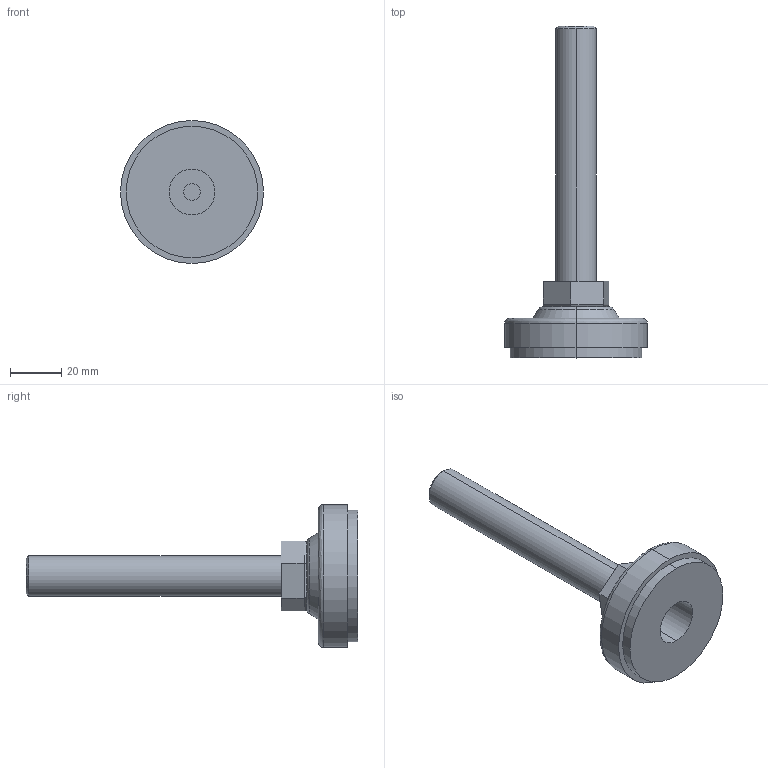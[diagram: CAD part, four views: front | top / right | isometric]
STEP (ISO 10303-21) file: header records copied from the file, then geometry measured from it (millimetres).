
FILE_DESCRIPTION (( 'STEP AP203' ), '1' );
FILE_NAME ('DY-D7516100.STEP', '2022-03-08T03:20:48', ( '' ), ( '' ), 'SwSTEP 2.0', 'SolidWorks 2017', '' );
FILE_SCHEMA (( 'CONFIG_CONTROL_DESIGN' ));
Length unit declared in the file: millimetre
Products named in the file (1): DY-D7516100
Bounding box: 56 x 130 x 56 mm (x, y, z)
Surface area: 14743.3 mm2 (no closed solid volume)
Topology: 0 solids, 2 shells, 34 faces, 76 edges, 48 vertices
Faces by surface type: cylinder 14, plane 12, bspline 4, cone 4
Entity records: 1254 total; most frequent: CARTESIAN_POINT 441, DIRECTION 158, ORIENTED_EDGE 142, EDGE_CURVE 76, AXIS2_PLACEMENT_3D 61, VERTEX_POINT 48, EDGE_LOOP 39, LINE 36
